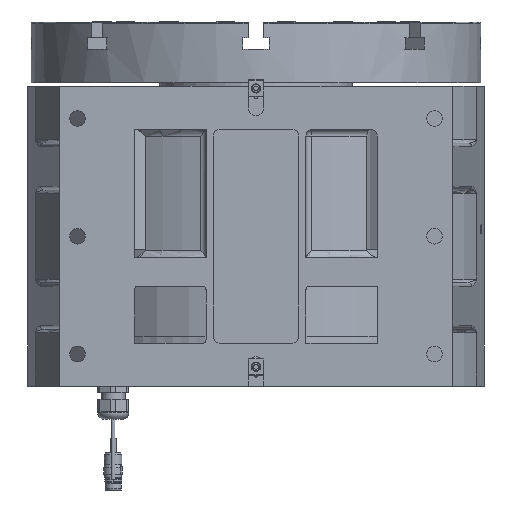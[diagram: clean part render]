
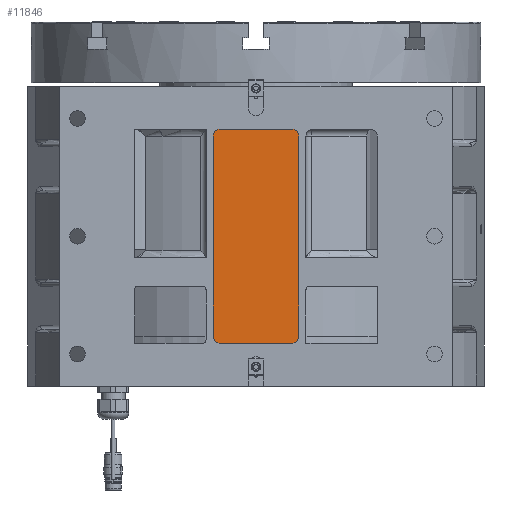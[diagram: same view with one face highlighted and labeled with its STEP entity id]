
A CAD part, front view. The second image highlights one B-rep face of the part: STEP entity #11846.
In plain terms, the highlighted planar face has unit normal (0, -1, 0).
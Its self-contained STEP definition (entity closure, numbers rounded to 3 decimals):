
#67 = EDGE_CURVE ( 'NONE', #10417, #10290, #7410, .T. ) ;
#142 = AXIS2_PLACEMENT_3D ( 'NONE', #2906, #5934, #8868 ) ;
#154 = VERTEX_POINT ( 'NONE', #19244 ) ;
#421 = CIRCLE ( 'NONE', #6518, 10. ) ;
#1461 = CIRCLE ( 'NONE', #3383, 10. ) ;
#1569 = CARTESIAN_POINT ( 'NONE',  ( -60., -399., 350. ) ) ;
#1638 = EDGE_CURVE ( 'NONE', #16205, #2057, #16547, .T. ) ;
#2057 = VERTEX_POINT ( 'NONE', #9357 ) ;
#2728 = DIRECTION ( 'NONE',  ( 0., 0., -1. ) ) ;
#2782 = CARTESIAN_POINT ( 'NONE',  ( -50., -399., 70. ) ) ;
#2906 = CARTESIAN_POINT ( 'NONE',  ( -50., -399., 350. ) ) ;
#3133 = CARTESIAN_POINT ( 'NONE',  ( -50., -399., 60. ) ) ;
#3383 = AXIS2_PLACEMENT_3D ( 'NONE', #14348, #5202, #16060 ) ;
#4233 = CARTESIAN_POINT ( 'NONE',  ( -60., -399., 60. ) ) ;
#4519 = AXIS2_PLACEMENT_3D ( 'NONE', #18788, #18887, #9844 ) ;
#4952 = EDGE_CURVE ( 'NONE', #6953, #10417, #421, .T. ) ;
#5202 = DIRECTION ( 'NONE',  ( 0., -1., 0. ) ) ;
#5596 = ORIENTED_EDGE ( 'NONE', *, *, #67, .T. ) ;
#5642 = EDGE_CURVE ( 'NONE', #10290, #16733, #8828, .T. ) ;
#5934 = DIRECTION ( 'NONE',  ( 0., -1., 0. ) ) ;
#6298 = CARTESIAN_POINT ( 'NONE',  ( 60., -399., 360. ) ) ;
#6518 = AXIS2_PLACEMENT_3D ( 'NONE', #18473, #12441, #18668 ) ;
#6700 = ORIENTED_EDGE ( 'NONE', *, *, #17878, .T. ) ;
#6794 = CIRCLE ( 'NONE', #6838, 10. ) ;
#6838 = AXIS2_PLACEMENT_3D ( 'NONE', #2782, #16472, #13361 ) ;
#6953 = VERTEX_POINT ( 'NONE', #8641 ) ;
#7334 = LINE ( 'NONE', #19697, #16630 ) ;
#7410 = LINE ( 'NONE', #6298, #11569 ) ;
#7963 = VECTOR ( 'NONE', #2728, 1000. ) ;
#8451 = VERTEX_POINT ( 'NONE', #15372 ) ;
#8489 = ORIENTED_EDGE ( 'NONE', *, *, #8748, .T. ) ;
#8641 = CARTESIAN_POINT ( 'NONE',  ( 60., -399., 350. ) ) ;
#8748 = EDGE_CURVE ( 'NONE', #154, #16205, #6794, .T. ) ;
#8783 = LINE ( 'NONE', #4233, #7963 ) ;
#8828 = CIRCLE ( 'NONE', #142, 10. ) ;
#8868 = DIRECTION ( 'NONE',  ( 0., 0., -1. ) ) ;
#9004 = CARTESIAN_POINT ( 'NONE',  ( 60., -399., 60. ) ) ;
#9357 = CARTESIAN_POINT ( 'NONE',  ( 50., -399., 60. ) ) ;
#9844 = DIRECTION ( 'NONE',  ( 0., 0., -1. ) ) ;
#10290 = VERTEX_POINT ( 'NONE', #18341 ) ;
#10417 = VERTEX_POINT ( 'NONE', #15525 ) ;
#11252 = FACE_OUTER_BOUND ( 'NONE', #13003, .T. ) ;
#11569 = VECTOR ( 'NONE', #18756, 1000. ) ;
#11846 = ADVANCED_FACE ( 'NONE', ( #11252 ), #16068, .T. ) ;
#12441 = DIRECTION ( 'NONE',  ( 0., -1., 0. ) ) ;
#13003 = EDGE_LOOP ( 'NONE', ( #5596, #19194, #17998, #8489, #15141, #13750, #6700, #19341 ) ) ;
#13361 = DIRECTION ( 'NONE',  ( 0., 0., -1. ) ) ;
#13750 = ORIENTED_EDGE ( 'NONE', *, *, #19222, .T. ) ;
#14348 = CARTESIAN_POINT ( 'NONE',  ( 50., -399., 70. ) ) ;
#15128 = DIRECTION ( 'NONE',  ( 1., 0., 0. ) ) ;
#15141 = ORIENTED_EDGE ( 'NONE', *, *, #1638, .T. ) ;
#15372 = CARTESIAN_POINT ( 'NONE',  ( 60., -399., 70. ) ) ;
#15525 = CARTESIAN_POINT ( 'NONE',  ( 50., -399., 360. ) ) ;
#16060 = DIRECTION ( 'NONE',  ( 0., 0., -1. ) ) ;
#16068 = PLANE ( 'NONE',  #4519 ) ;
#16205 = VERTEX_POINT ( 'NONE', #3133 ) ;
#16472 = DIRECTION ( 'NONE',  ( 0., -1., 0. ) ) ;
#16489 = DIRECTION ( 'NONE',  ( 0., 0., 1. ) ) ;
#16547 = LINE ( 'NONE', #9004, #18936 ) ;
#16630 = VECTOR ( 'NONE', #16489, 1000. ) ;
#16733 = VERTEX_POINT ( 'NONE', #1569 ) ;
#17696 = EDGE_CURVE ( 'NONE', #16733, #154, #8783, .T. ) ;
#17878 = EDGE_CURVE ( 'NONE', #8451, #6953, #7334, .T. ) ;
#17998 = ORIENTED_EDGE ( 'NONE', *, *, #17696, .T. ) ;
#18341 = CARTESIAN_POINT ( 'NONE',  ( -50., -399., 360. ) ) ;
#18473 = CARTESIAN_POINT ( 'NONE',  ( 50., -399., 350. ) ) ;
#18668 = DIRECTION ( 'NONE',  ( 0., 0., -1. ) ) ;
#18756 = DIRECTION ( 'NONE',  ( -1., 0., 0. ) ) ;
#18788 = CARTESIAN_POINT ( 'NONE',  ( 60., -399., 360. ) ) ;
#18887 = DIRECTION ( 'NONE',  ( 0., -1., 0. ) ) ;
#18936 = VECTOR ( 'NONE', #15128, 1000. ) ;
#19194 = ORIENTED_EDGE ( 'NONE', *, *, #5642, .T. ) ;
#19222 = EDGE_CURVE ( 'NONE', #2057, #8451, #1461, .T. ) ;
#19244 = CARTESIAN_POINT ( 'NONE',  ( -60., -399., 70. ) ) ;
#19341 = ORIENTED_EDGE ( 'NONE', *, *, #4952, .T. ) ;
#19697 = CARTESIAN_POINT ( 'NONE',  ( 60., -399., 60. ) ) ;
